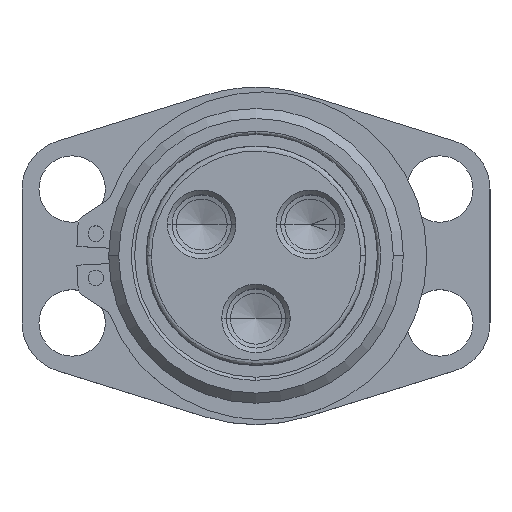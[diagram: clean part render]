
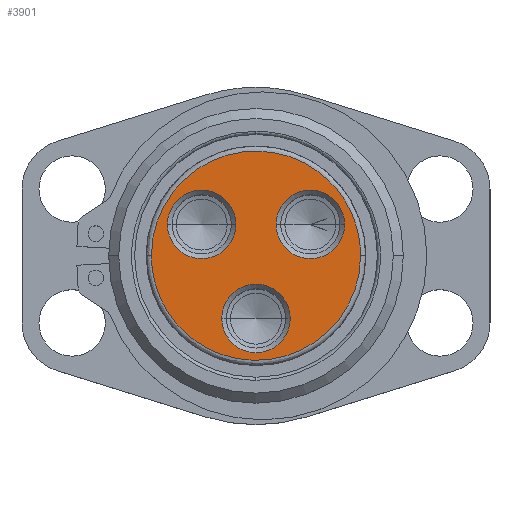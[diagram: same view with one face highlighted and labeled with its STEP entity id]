
A CAD part, top view. The second image highlights one B-rep face of the part: STEP entity #3901.
In plain terms, the highlighted planar face has unit normal (0, 0, 1).
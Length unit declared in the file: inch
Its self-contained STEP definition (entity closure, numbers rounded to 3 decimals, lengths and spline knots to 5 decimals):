
#41 = CARTESIAN_POINT ( 'NONE',  ( 0.70611, 0.25, 0. ) ) ;
#106 = CIRCLE ( 'NONE', #3296, 0.2731 ) ;
#132 = CARTESIAN_POINT ( 'NONE',  ( -0.8341, 0., 0. ) ) ;
#182 = VERTEX_POINT ( 'NONE', #184 ) ;
#184 = CARTESIAN_POINT ( 'NONE',  ( -0.15991, 0.25, 0. ) ) ;
#329 = DIRECTION ( 'NONE',  ( 1., 0., 0. ) ) ;
#403 = CIRCLE ( 'NONE', #4287, 0.2731 ) ;
#404 = CIRCLE ( 'NONE', #2883, 0.2731 ) ;
#428 = AXIS2_PLACEMENT_3D ( 'NONE', #953, #3965, #329 ) ;
#496 = EDGE_CURVE ( 'NONE', #4732, #182, #403, .T. ) ;
#524 = DIRECTION ( 'NONE',  ( 1., 0., 0. ) ) ;
#615 = ORIENTED_EDGE ( 'NONE', *, *, #885, .T. ) ;
#721 = FACE_OUTER_BOUND ( 'NONE', #2026, .T. ) ;
#735 = CARTESIAN_POINT ( 'NONE',  ( 0.43301, 0.25, 0. ) ) ;
#740 = VERTEX_POINT ( 'NONE', #3569 ) ;
#879 = CARTESIAN_POINT ( 'NONE',  ( -0.43301, 0.25, 0. ) ) ;
#885 = EDGE_CURVE ( 'NONE', #1150, #1451, #2181, .T. ) ;
#899 = CARTESIAN_POINT ( 'NONE',  ( 0.2731, -0.5, 0. ) ) ;
#953 = CARTESIAN_POINT ( 'NONE',  ( 0., -0.5, 0. ) ) ;
#1111 = DIRECTION ( 'NONE',  ( 0., 0., -1. ) ) ;
#1150 = VERTEX_POINT ( 'NONE', #41 ) ;
#1181 = EDGE_CURVE ( 'NONE', #182, #4732, #1993, .T. ) ;
#1196 = FACE_BOUND ( 'NONE', #2257, .T. ) ;
#1292 = ORIENTED_EDGE ( 'NONE', *, *, #4216, .T. ) ;
#1331 = VERTEX_POINT ( 'NONE', #2926 ) ;
#1345 = CARTESIAN_POINT ( 'NONE',  ( -0.8341, 0., 0. ) ) ;
#1451 = VERTEX_POINT ( 'NONE', #3697 ) ;
#1483 = CARTESIAN_POINT ( 'NONE',  ( -0.43301, 0.25, 0. ) ) ;
#1513 = FACE_BOUND ( 'NONE', #1922, .T. ) ;
#1639 = CARTESIAN_POINT ( 'NONE',  ( 0., -0.5, 0. ) ) ;
#1689 = CARTESIAN_POINT ( 'NONE',  ( 0.8341, 0., 0. ) ) ;
#1697 = CARTESIAN_POINT ( 'NONE',  ( -0.70611, 0.25, 0. ) ) ;
#1706 =( BOUNDED_CURVE ( )  B_SPLINE_CURVE ( 3, ( #1720, #2117, #3601, #1345 ),
 .UNSPECIFIED., .F., .F. ) 
 B_SPLINE_CURVE_WITH_KNOTS ( ( 4, 4 ),
 ( 0., 1. ),
 .UNSPECIFIED. ) 
 CURVE ( )  GEOMETRIC_REPRESENTATION_ITEM ( )  RATIONAL_B_SPLINE_CURVE ( ( 1., 0.333, 0.333, 1. ) ) 
 REPRESENTATION_ITEM ( '' )  );
#1720 = CARTESIAN_POINT ( 'NONE',  ( 0.8341, 0., 0. ) ) ;
#1754 = CARTESIAN_POINT ( 'NONE',  ( 0., 0., 0. ) ) ;
#1922 = EDGE_LOOP ( 'NONE', ( #1292, #4011 ) ) ;
#1993 = CIRCLE ( 'NONE', #2836, 0.2731 ) ;
#1999 = CARTESIAN_POINT ( 'NONE',  ( -0.8341, 1.6682, 0. ) ) ;
#2026 = EDGE_LOOP ( 'NONE', ( #4624, #3833 ) ) ;
#2117 = CARTESIAN_POINT ( 'NONE',  ( 0.8341, -1.6682, 0. ) ) ;
#2130 = ORIENTED_EDGE ( 'NONE', *, *, #3133, .T. ) ;
#2181 = CIRCLE ( 'NONE', #3876, 0.2731 ) ;
#2198 = EDGE_CURVE ( 'NONE', #740, #3258, #106, .T. ) ;
#2249 = CIRCLE ( 'NONE', #428, 0.2731 ) ;
#2257 = EDGE_LOOP ( 'NONE', ( #3561, #4094 ) ) ;
#2341 = DIRECTION ( 'NONE',  ( 0., 0., -1. ) ) ;
#2368 = EDGE_LOOP ( 'NONE', ( #615, #2130 ) ) ;
#2407 = DIRECTION ( 'NONE',  ( 0., 0., -1. ) ) ;
#2695 = EDGE_CURVE ( 'NONE', #2751, #1331, #3234, .T. ) ;
#2746 = AXIS2_PLACEMENT_3D ( 'NONE', #1754, #3302, #2922 ) ;
#2751 = VERTEX_POINT ( 'NONE', #4259 ) ;
#2836 = AXIS2_PLACEMENT_3D ( 'NONE', #1483, #3660, #4057 ) ;
#2883 = AXIS2_PLACEMENT_3D ( 'NONE', #735, #1111, #3760 ) ;
#2922 = DIRECTION ( 'NONE',  ( 1., 0., 0. ) ) ;
#2926 = CARTESIAN_POINT ( 'NONE',  ( 0.8341, 0., 0. ) ) ;
#3133 = EDGE_CURVE ( 'NONE', #1451, #1150, #404, .T. ) ;
#3157 = DIRECTION ( 'NONE',  ( 1., 0., 0. ) ) ;
#3234 =( BOUNDED_CURVE ( )  B_SPLINE_CURVE ( 3, ( #132, #1999, #3906, #1689 ),
 .UNSPECIFIED., .F., .F. ) 
 B_SPLINE_CURVE_WITH_KNOTS ( ( 4, 4 ),
 ( 0., 1. ),
 .UNSPECIFIED. ) 
 CURVE ( )  GEOMETRIC_REPRESENTATION_ITEM ( )  RATIONAL_B_SPLINE_CURVE ( ( 1., 0.333, 0.333, 1. ) ) 
 REPRESENTATION_ITEM ( '' )  );
#3258 = VERTEX_POINT ( 'NONE', #899 ) ;
#3296 = AXIS2_PLACEMENT_3D ( 'NONE', #1639, #2341, #4209 ) ;
#3302 = DIRECTION ( 'NONE',  ( 0., 0., 1. ) ) ;
#3492 = FACE_BOUND ( 'NONE', #2368, .T. ) ;
#3561 = ORIENTED_EDGE ( 'NONE', *, *, #1181, .T. ) ;
#3569 = CARTESIAN_POINT ( 'NONE',  ( -0.2731, -0.5, 0. ) ) ;
#3601 = CARTESIAN_POINT ( 'NONE',  ( -0.8341, -1.6682, 0. ) ) ;
#3652 = CARTESIAN_POINT ( 'NONE',  ( 0.43301, 0.25, 0. ) ) ;
#3660 = DIRECTION ( 'NONE',  ( 0., 0., -1. ) ) ;
#3697 = CARTESIAN_POINT ( 'NONE',  ( 0.15991, 0.25, 0. ) ) ;
#3760 = DIRECTION ( 'NONE',  ( 1., 0., 0. ) ) ;
#3833 = ORIENTED_EDGE ( 'NONE', *, *, #3900, .F. ) ;
#3876 = AXIS2_PLACEMENT_3D ( 'NONE', #3652, #4273, #3157 ) ;
#3900 = EDGE_CURVE ( 'NONE', #1331, #2751, #1706, .T. ) ;
#3901 = ADVANCED_FACE ( 'NONE', ( #721, #1513, #3492, #1196 ), #4771, .T. ) ;
#3906 = CARTESIAN_POINT ( 'NONE',  ( 0.8341, 1.6682, 0. ) ) ;
#3965 = DIRECTION ( 'NONE',  ( 0., 0., -1. ) ) ;
#4011 = ORIENTED_EDGE ( 'NONE', *, *, #2198, .T. ) ;
#4057 = DIRECTION ( 'NONE',  ( 1., 0., 0. ) ) ;
#4094 = ORIENTED_EDGE ( 'NONE', *, *, #496, .T. ) ;
#4209 = DIRECTION ( 'NONE',  ( 1., 0., 0. ) ) ;
#4216 = EDGE_CURVE ( 'NONE', #3258, #740, #2249, .T. ) ;
#4259 = CARTESIAN_POINT ( 'NONE',  ( -0.8341, 0., 0. ) ) ;
#4273 = DIRECTION ( 'NONE',  ( 0., 0., -1. ) ) ;
#4287 = AXIS2_PLACEMENT_3D ( 'NONE', #879, #2407, #524 ) ;
#4624 = ORIENTED_EDGE ( 'NONE', *, *, #2695, .F. ) ;
#4732 = VERTEX_POINT ( 'NONE', #1697 ) ;
#4771 = PLANE ( 'NONE',  #2746 ) ;
